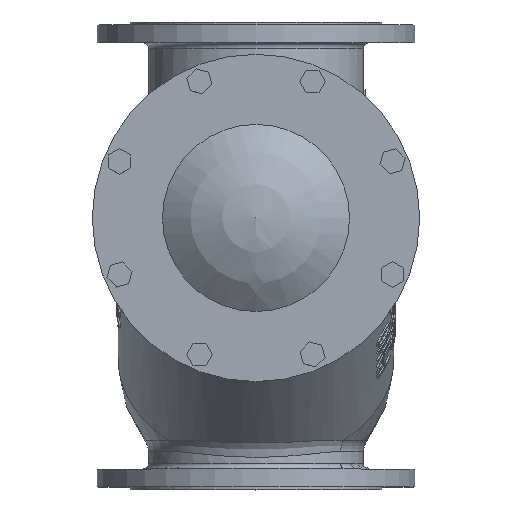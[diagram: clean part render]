
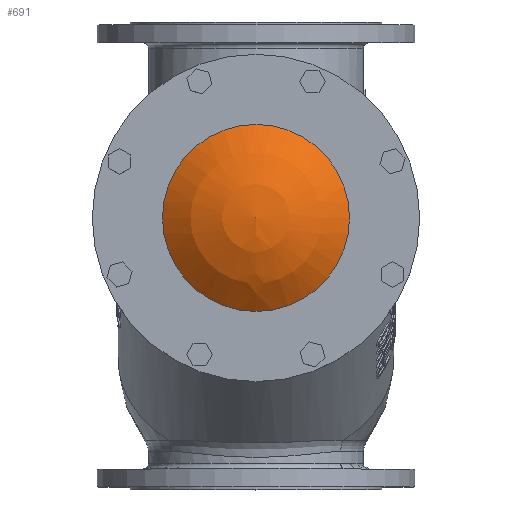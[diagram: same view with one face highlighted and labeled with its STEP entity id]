
A CAD part, top view. The second image highlights one B-rep face of the part: STEP entity #691.
In plain terms, the highlighted spherical face has radius 150.579 mm.
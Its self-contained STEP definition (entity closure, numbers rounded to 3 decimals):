
#691 = ADVANCED_FACE( '', ( #1616 ), #1617, .T. );
#1616 = FACE_OUTER_BOUND( '', #8088, .T. );
#1617 = SPHERICAL_SURFACE( '', #8089, 150.579 );
#8088 = EDGE_LOOP( '', ( #15844 ) );
#8089 = AXIS2_PLACEMENT_3D( '', #15845, #15846, #15847 );
#15844 = ORIENTED_EDGE( '', *, *, #17805, .T. );
#15845 = CARTESIAN_POINT( '', ( 0., 40.184, 172.098 ) );
#15846 = DIRECTION( '', ( 0., 0., 1. ) );
#15847 = DIRECTION( '', ( 0., -1., 0. ) );
#17805 = EDGE_CURVE( '', #19315, #19315, #19316, .T. );
#19315 = VERTEX_POINT( '', #28461 );
#19316 = CIRCLE( '', #28462, 100. );
#28461 = CARTESIAN_POINT( '', ( 100., 40.184, 284.677 ) );
#28462 = AXIS2_PLACEMENT_3D( '', #29754, #29755, #29756 );
#29754 = CARTESIAN_POINT( '', ( 0., 40.184, 284.677 ) );
#29755 = DIRECTION( '', ( 0., 0., 1. ) );
#29756 = DIRECTION( '', ( 1., 0., 0. ) );
